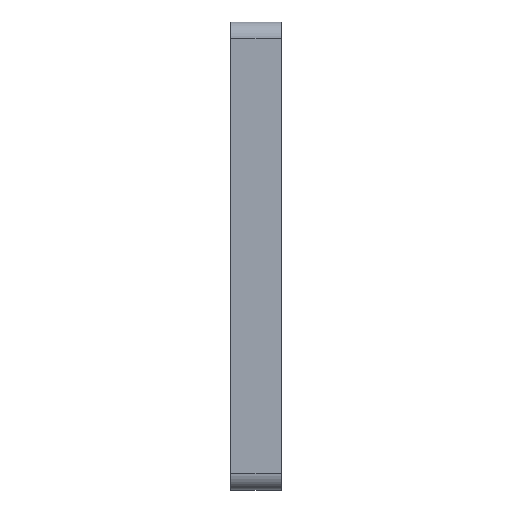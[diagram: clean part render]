
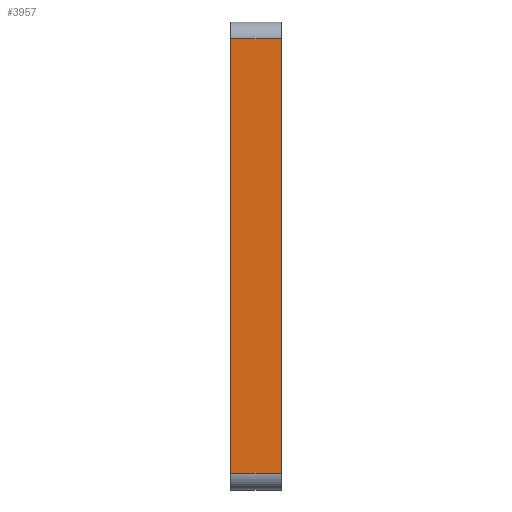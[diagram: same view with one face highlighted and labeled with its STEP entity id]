
A CAD part, left-side view. The second image highlights one B-rep face of the part: STEP entity #3957.
In plain terms, the highlighted planar face has unit normal (-1, 0, 0).
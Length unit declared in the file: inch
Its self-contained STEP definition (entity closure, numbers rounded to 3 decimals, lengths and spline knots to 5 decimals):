
#355 = CARTESIAN_POINT ( 'NONE',  ( -1.75, 0.375, -1.625 ) ) ;
#487 = EDGE_CURVE ( 'NONE', #1184, #5477, #1866, .T. ) ;
#1096 = CARTESIAN_POINT ( 'NONE',  ( -1.75, 0., 1.625 ) ) ;
#1150 = AXIS2_PLACEMENT_3D ( 'NONE', #4808, #4733, #2936 ) ;
#1172 = EDGE_CURVE ( 'NONE', #1184, #6410, #6293, .T. ) ;
#1184 = VERTEX_POINT ( 'NONE', #355 ) ;
#1215 = ORIENTED_EDGE ( 'NONE', *, *, #1172, .T. ) ;
#1641 = DIRECTION ( 'NONE',  ( 0., 1., 0. ) ) ;
#1797 = DIRECTION ( 'NONE',  ( 0., 0., 1. ) ) ;
#1866 = LINE ( 'NONE', #3530, #6491 ) ;
#2233 = CARTESIAN_POINT ( 'NONE',  ( -1.75, 0., -1.625 ) ) ;
#2240 = FACE_OUTER_BOUND ( 'NONE', #6177, .T. ) ;
#2512 = ORIENTED_EDGE ( 'NONE', *, *, #7598, .T. ) ;
#2721 = CARTESIAN_POINT ( 'NONE',  ( -1.75, 0., -1.625 ) ) ;
#2936 = DIRECTION ( 'NONE',  ( 0., 0., 1. ) ) ;
#3437 = VECTOR ( 'NONE', #7413, 39.37008 ) ;
#3530 = CARTESIAN_POINT ( 'NONE',  ( -1.75, 0.375, -1.75 ) ) ;
#3957 = ADVANCED_FACE ( 'NONE', ( #2240 ), #5347, .T. ) ;
#4277 = LINE ( 'NONE', #4652, #5741 ) ;
#4545 = VECTOR ( 'NONE', #6768, 39.37008 ) ;
#4652 = CARTESIAN_POINT ( 'NONE',  ( -1.75, 0., 1.625 ) ) ;
#4733 = DIRECTION ( 'NONE',  ( -1., 0., 0. ) ) ;
#4808 = CARTESIAN_POINT ( 'NONE',  ( -1.75, 0., -1.75 ) ) ;
#4987 = ORIENTED_EDGE ( 'NONE', *, *, #487, .F. ) ;
#5042 = EDGE_CURVE ( 'NONE', #6944, #5477, #4277, .T. ) ;
#5100 = ORIENTED_EDGE ( 'NONE', *, *, #5042, .T. ) ;
#5190 = LINE ( 'NONE', #6230, #4545 ) ;
#5347 = PLANE ( 'NONE',  #1150 ) ;
#5477 = VERTEX_POINT ( 'NONE', #5652 ) ;
#5652 = CARTESIAN_POINT ( 'NONE',  ( -1.75, 0.375, 1.625 ) ) ;
#5741 = VECTOR ( 'NONE', #1641, 39.37008 ) ;
#6177 = EDGE_LOOP ( 'NONE', ( #2512, #5100, #4987, #1215 ) ) ;
#6230 = CARTESIAN_POINT ( 'NONE',  ( -1.75, 0., -1.75 ) ) ;
#6293 = LINE ( 'NONE', #2721, #3437 ) ;
#6410 = VERTEX_POINT ( 'NONE', #2233 ) ;
#6491 = VECTOR ( 'NONE', #1797, 39.37008 ) ;
#6768 = DIRECTION ( 'NONE',  ( 0., 0., 1. ) ) ;
#6944 = VERTEX_POINT ( 'NONE', #1096 ) ;
#7413 = DIRECTION ( 'NONE',  ( 0., -1., 0. ) ) ;
#7598 = EDGE_CURVE ( 'NONE', #6410, #6944, #5190, .T. ) ;
